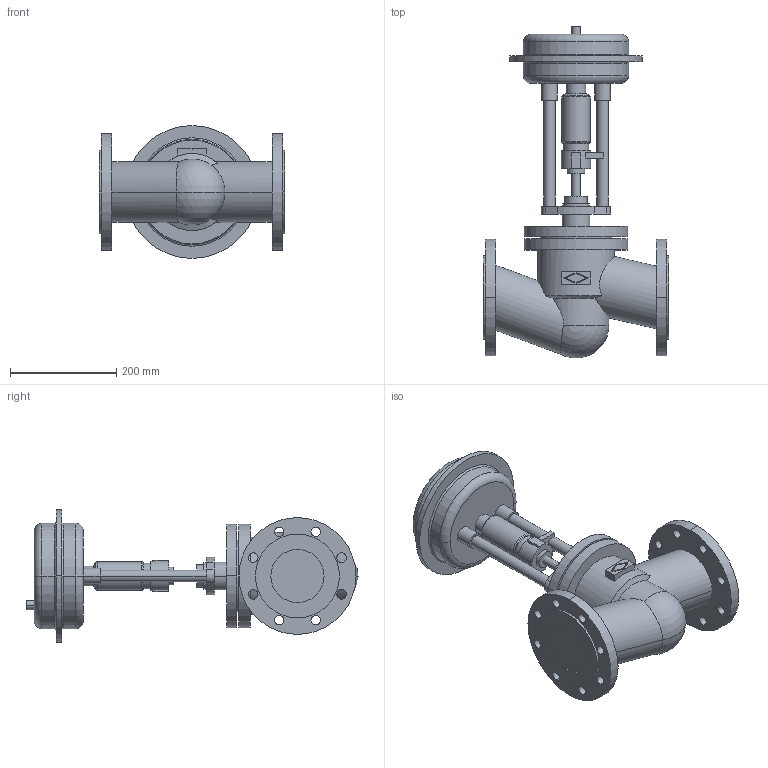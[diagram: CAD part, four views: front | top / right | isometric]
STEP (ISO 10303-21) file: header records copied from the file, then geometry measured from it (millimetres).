
FILE_DESCRIPTION(('OneSpaceDesigner STEP Export'),'2;1');
FILE_NAME('c000000363.stp','2005-02-14T14:00:43',(''),(''),'OneSpace Designer STEP processor (Jan. 2003) for AP203(Solid Model)','OneSpace Designer 12.01D 09-Jul-2004 (C) CoCreate Software GmbH','');
FILE_SCHEMA(('CONFIG_CONTROL_DESIGN'));
Length unit declared in the file: millimetre
Products named in the file (2): 1; 2
Bounding box: 350 x 624.97 x 250 mm (x, y, z)
Volume: 11210426.4 mm3; surface area: 651484.4 mm2
Topology: 2 solids, 2 shells, 185 faces, 450 edges, 294 vertices
Faces by surface type: cylinder 96, plane 65, torus 16, cone 6, sphere 2
Entity records: 5177 total; most frequent: CARTESIAN_POINT 1064, ORIENTED_EDGE 896, DIRECTION 711, EDGE_CURVE 448, VERTEX_POINT 294, AXIS2_PLACEMENT_3D 262, EDGE_LOOP 244, VECTOR 187
